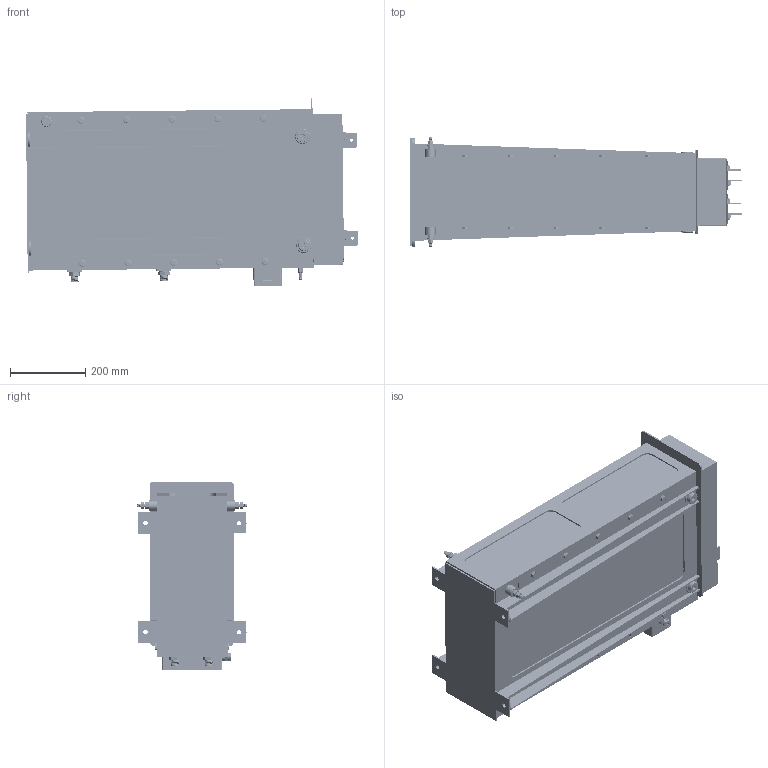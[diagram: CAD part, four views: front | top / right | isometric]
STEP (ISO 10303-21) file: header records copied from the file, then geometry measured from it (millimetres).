
FILE_DESCRIPTION (( 'STEP AP203' ), '1' );
FILE_NAME ('ﾐﾑﾌﾊ2-ﾀ IP21.STEP', '2024-04-04T18:31:28', ( '' ), ( '' ), 'SwSTEP 2.0', 'SolidWorks 2020', '' );
FILE_SCHEMA (( 'CONFIG_CONTROL_DESIGN' ));
Products named in the file (1): ﾐﾑﾌﾊ2-ﾀ IP21
Bounding box: 880.55 x 294 x 500.79 mm (x, y, z)
Volume: 61573575.7 mm3; surface area: 3865446.4 mm2
Topology: 151 solids, 225 shells, 9234 faces, 23060 edges, 14697 vertices
Faces by surface type: cylinder 4190, plane 3556, torus 584, cone 454, bspline 410, sphere 40
Entity records: 464846 total; most frequent: CARTESIAN_POINT 256664, ORIENTED_EDGE 45816, DIRECTION 41359, EDGE_CURVE 22908, AXIS2_PLACEMENT_3D 15134, VERTEX_POINT 14697, LINE 11091, VECTOR 11091
